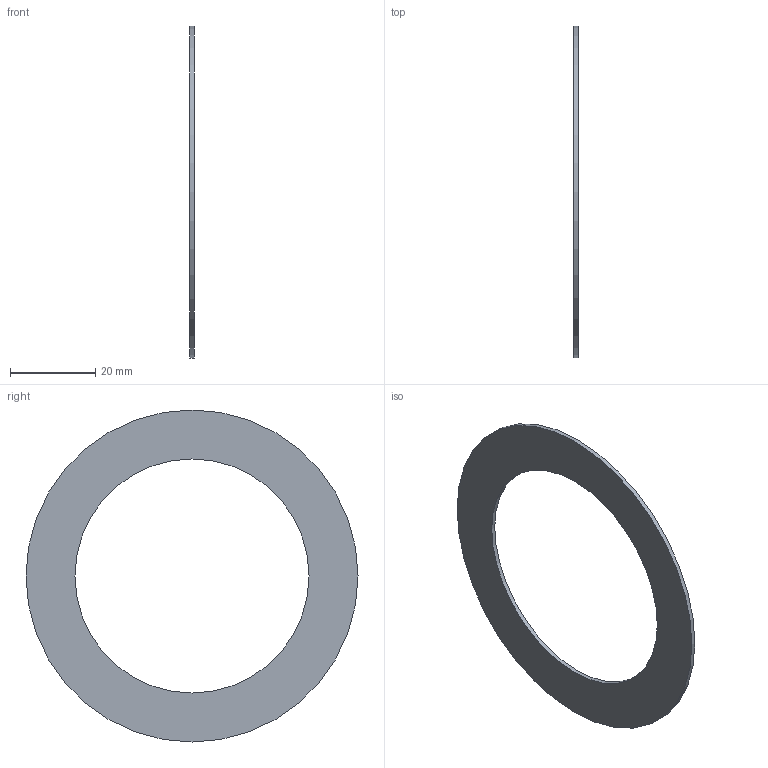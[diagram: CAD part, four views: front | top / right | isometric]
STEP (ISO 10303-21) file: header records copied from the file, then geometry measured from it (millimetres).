
FILE_DESCRIPTION(/* description */ (''),/* implementation_level */ '2;1');
FILE_NAME(/* name */ 'I:\Katalóg ihlovích ložísk\AXK---\AS--\AS 5578.stp',/* time_stamp */ '2016-12-12T14:09:20+01:00',/* author */ ('OUBALASKO'),/* organization */ (''),/* preprocessor_version */ 'ST-DEVELOPER v15.6',/* originating_system */ 'Autodesk Inventor 2015',/* authorisation */ '');
FILE_SCHEMA (('AUTOMOTIVE_DESIGN { 1 0 10303 214 3 1 1 }'));
Length unit declared in the file: millimetre
Products named in the file (1): AS 5578
Bounding box: 1 x 78 x 78 mm (x, y, z)
Volume: 2402.5 mm3; surface area: 5222.9 mm2
Topology: 1 solids, 1 shells, 4 faces, 6 edges, 4 vertices
Faces by surface type: plane 2, cylinder 2
Full cylindrical faces by diameter (mm): 55 x1, 78 x1
Entity records: 112 total; most frequent: DIRECTION 18, CARTESIAN_POINT 13, AXIS2_PLACEMENT_3D 9, EDGE_LOOP 8, ORIENTED_EDGE 8, FACE_BOUND 4, FACE_OUTER_BOUND 4, CIRCLE 4
